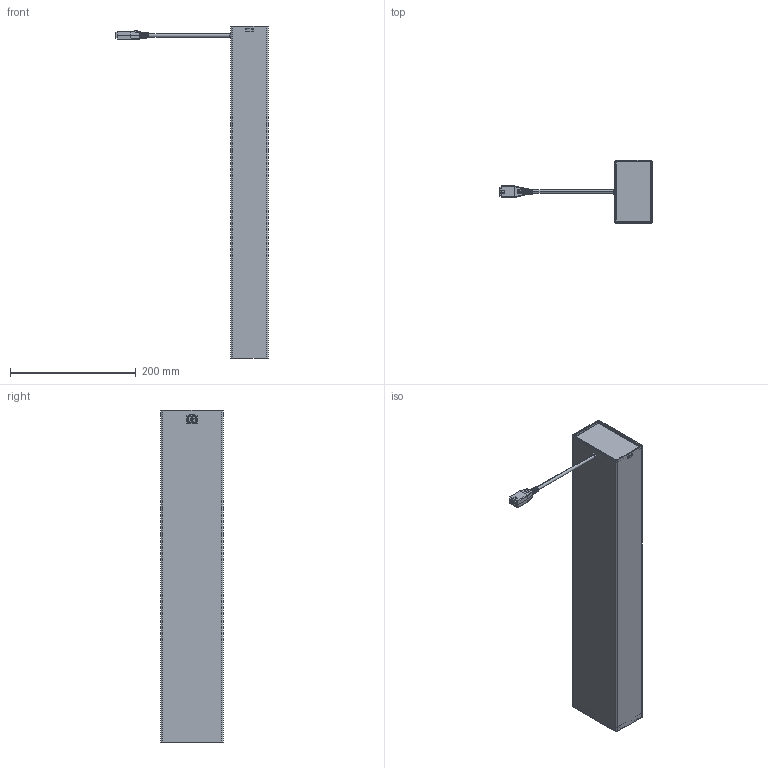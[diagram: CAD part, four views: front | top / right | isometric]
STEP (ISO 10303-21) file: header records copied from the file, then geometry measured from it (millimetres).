
FILE_DESCRIPTION((''),'2;1');
FILE_NAME('DL12-STANDARD_STEP_ASM','2018-09-14T09:53:58',('cm'),(''),'CREO PARAMETRIC BY PTC INC, 2017260','CREO PARAMETRIC BY PTC INC, 2017260','');
FILE_SCHEMA(('AP242_MANAGED_MODEL_BASED_3D_ENGINEERING_MIM_LF { 1 0 10303 442 1 1 4 }'));
Products named in the file (4): INNER-DL12; MIDDLE-DL12; OUTER-DL12-STANDARD; DL12-STANDARD_STEP_ASM
Assembly tree (3 placements, depth 2):
  DL12-STANDARD_STEP_ASM
    INNER-DL12
    MIDDLE-DL12
    OUTER-DL12-STANDARD
Bounding box: 242.9 x 100 x 529 mm (x, y, z)
Volume: 4737558 mm3; surface area: 504419.5 mm2
Topology: 4 solids, 9 shells, 1731 faces, 5224 edges, 3505 vertices
Faces by surface type: torus 715, plane 479, cylinder 395, extrusion 68, cone 60, bspline 10, sphere 4
Entity records: 79025 total; most frequent: CARTESIAN_POINT 26897, ORIENTED_EDGE 10428, DIRECTION 7536, EDGE_CURVE 5218, VERTEX_POINT 3505, AXIS2_PLACEMENT_3D 2943, B_SPLINE_CURVE_WITH_KNOTS 2423, EDGE_LOOP 1805
